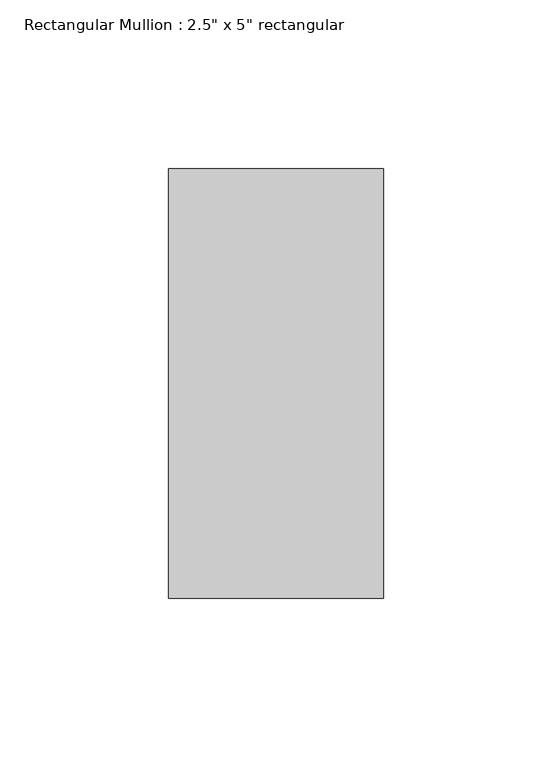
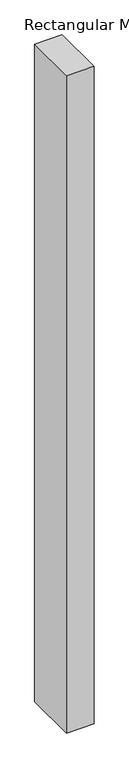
"""IFC4 building model written with IfcOpenShell, lengths in millimetres: member geometry."""

from ifc_helpers import new_model, si_unit, frame, origin, place, context, project, spatial, polyline, outline, extrude, source, transform, mapped, element, save


def member_6f7cbf6b(model_context):
    return source(origin(), model_context, "Body", "SweptSolid", [
        extrude(outline(polyline([(0.0, 63.5), (0.0, -63.5), (-63.5, -63.5), (-63.5, 63.5), (0.0, 63.5)])), frame((0.0, 0.0, -1606.55), z_axis=(0.0, 0.0, 1.0), x_axis=(1.0, 0.0, 0.0)), (0.0, 0.0, 1.0), 1606.55),
    ])


if __name__ == "__main__":
    model = new_model("IFC4")
    model_context = context("Model", 3, world=origin())
    ifc_project = project(units=[si_unit("LENGTHUNIT", "METRE", prefix="MILLI")], contexts=[model_context])
    site = spatial("IfcSite", under=ifc_project)
    building = spatial("IfcBuilding", under=site)
    placement = place(None, origin())
    member_shape = member_6f7cbf6b(model_context)
    element("IfcMember", 1, ObjectType="Rectangular Mullion : 2.5\" x 5\" rectangular", at=placement, inside=building, context=model_context, shape_type="MappedRepresentation", body=[
        mapped(member_shape, transform((0.0, 0.0, 0.0), x_axis=(1.0, 0.0, 0.0), y_axis=(0.0, 1.0, 0.0), z_axis=(0.0, 0.0, 1.0))),
    ])
    save(model, "model.ifc")
